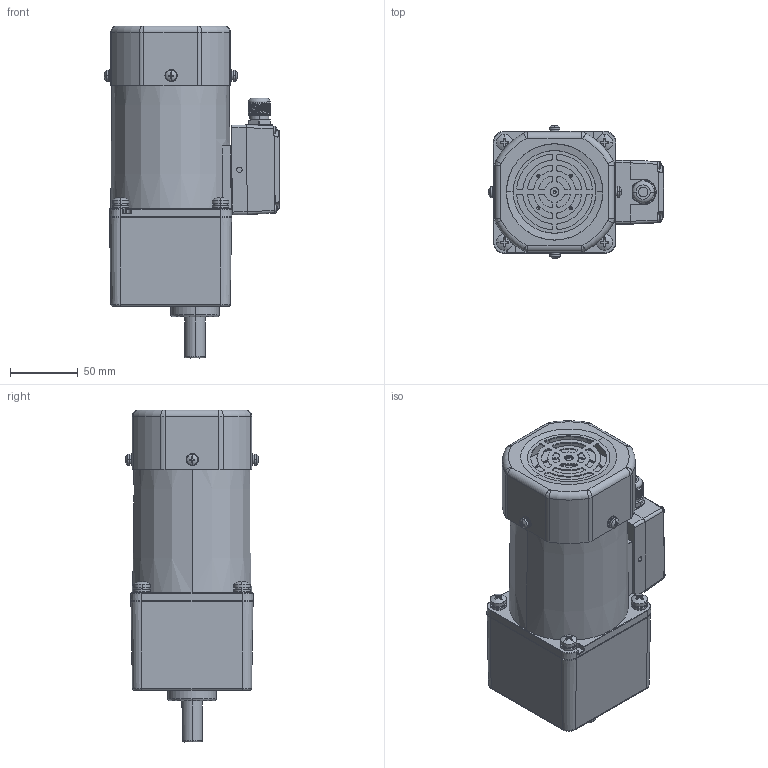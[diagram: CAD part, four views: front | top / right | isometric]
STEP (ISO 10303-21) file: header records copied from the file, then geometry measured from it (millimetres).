
FILE_DESCRIPTION (( 'STEP AP203' ), '1' );
FILE_NAME ('5IK90RGU-CFT(5GU3KB-200KB).STEP', '2020-04-10T06:11:40', ( 'Windows 蚚誧' ), ( '' ), 'SwSTEP 2.0', 'SolidWorks 2019', '' );
FILE_SCHEMA (( 'CONFIG_CONTROL_DESIGN' ));
Length unit declared in the file: millimetre
Products named in the file (10): 90TSJXHJK; 5IK90RA-CFT; TSJXH^70TSJXHG(2)_70TSJXHG; 5GU3KB-200KB; M14SJQ^70TSJXHG(2)_70TSJXHG; 5IK90RGU-CFT(5GU3KB-200KB); M3^70TSJXHG(2)_70TSJXHG; 70TSJXHG(2)^70TSJXHG; 70TSJXHG; 90TSFZ
Assembly tree (12 placements, depth 5):
  5IK90RGU-CFT(5GU3KB-200KB)
    5IK90RA-CFT
      90TSJXHJK
      70TSJXHG
        70TSJXHG(2)^70TSJXHG
          TSJXH^70TSJXHG(2)_70TSJXHG
          M14SJQ^70TSJXHG(2)_70TSJXHG
          M3^70TSJXHG(2)_70TSJXHG  x4
      90TSFZ
    5GU3KB-200KB
Bounding box: 129.3 x 98.11 x 244.5 mm (x, y, z)
Volume: 794419 mm3; surface area: 206579.1 mm2
Topology: 36 solids, 37 shells, 1872 faces, 4815 edges, 3033 vertices
Faces by surface type: cylinder 691, plane 498, cone 424, torus 150, sphere 59, bspline 50
Entity records: 53292 total; most frequent: CARTESIAN_POINT 15716, DIRECTION 8036, ORIENTED_EDGE 7546, EDGE_CURVE 3773, AXIS2_PLACEMENT_3D 3298, VERTEX_POINT 2412, CIRCLE 1846, EDGE_LOOP 1607
